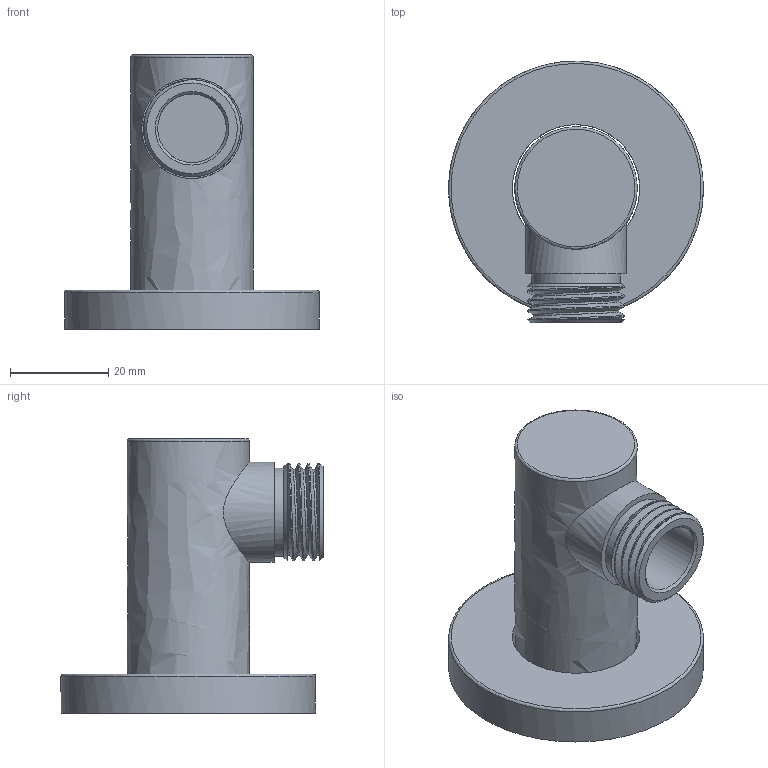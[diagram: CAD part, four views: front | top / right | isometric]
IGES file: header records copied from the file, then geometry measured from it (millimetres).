
Global section: file name: fd2f6c5c-2368-4e38-8e7f-17e74a9f96c4; native system: unknown; preprocessor: unknown; author: unknown; organization: unknown; date: 20200921.111509; units: millimetre
Bounding box: 52 x 53.49 x 56 mm (x, y, z)
Volume: 42188.6 mm3; surface area: 12677 mm2
Topology: 2 solids, 2 shells, 25 faces, 58 edges, 41 vertices
Faces by surface type: bspline 25
